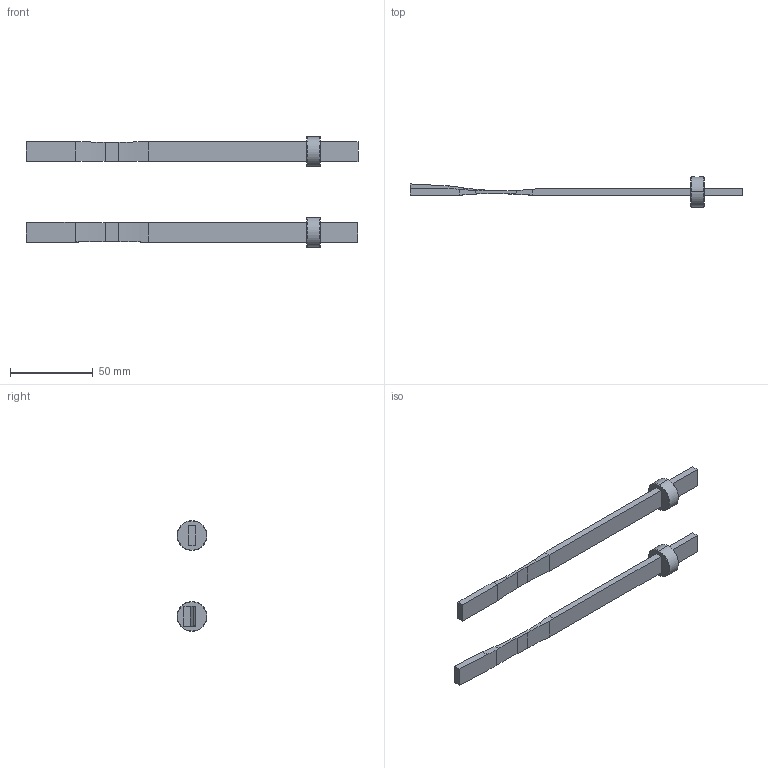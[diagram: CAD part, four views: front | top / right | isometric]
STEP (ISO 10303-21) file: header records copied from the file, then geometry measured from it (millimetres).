
FILE_DESCRIPTION (( 'STEP AP214' ), '1' );
FILE_NAME ('PF124200WB.STEP', '2013-07-26T14:38:24', ( '' ), ( '' ), 'SwSTEP 2.0', 'SolidWorks 2011', '' );
FILE_SCHEMA (( 'AUTOMOTIVE_DESIGN' ));
Length unit declared in the file: millimetre
Products named in the file (5): 8PF1242WB-00-RECTO-20130123; PF124200WB; PF124200-WB-20130121-; 8PF1242WB-00-20130117; 9FP041218-20130117
Assembly tree (5 placements, depth 3):
  PF124200WB
    9FP041218-20130117
    PF124200-WB-20130121-
      8PF1242WB-00-RECTO-20130123
      9FP041218-20130117
    8PF1242WB-00-20130117
Bounding box: 200.01 x 18.03 x 66.72 mm (x, y, z)
Volume: 20462.1 mm3; surface area: 14809.8 mm2
Topology: 4 solids, 4 shells, 74 faces, 186 edges, 118 vertices
Faces by surface type: plane 40, cylinder 22, cone 12
Entity records: 2439 total; most frequent: CARTESIAN_POINT 426, ORIENTED_EDGE 300, DIRECTION 300, EDGE_CURVE 150, AXIS2_PLACEMENT_3D 103, VERTEX_POINT 97, VECTOR 94, LINE 94
